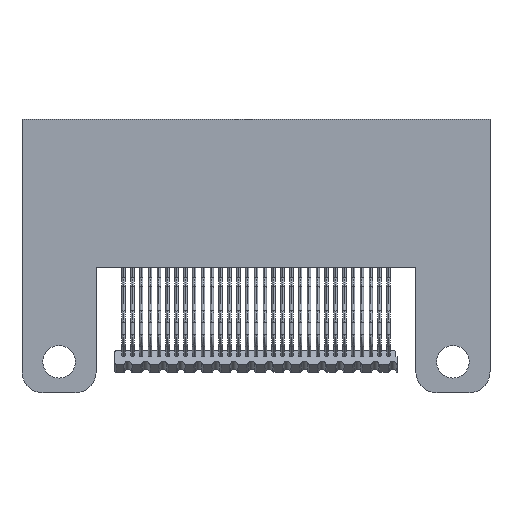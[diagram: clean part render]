
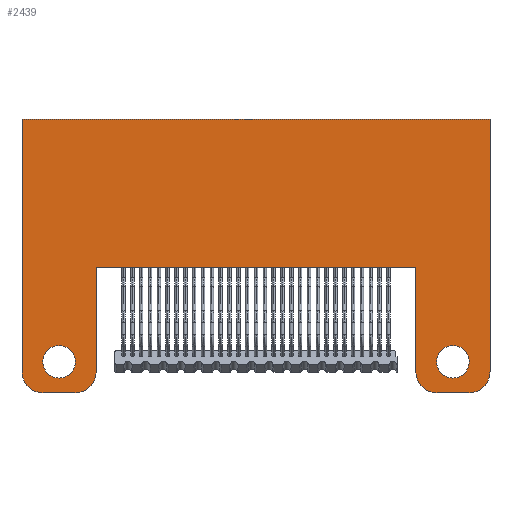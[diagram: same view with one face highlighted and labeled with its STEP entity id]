
A CAD part, front view. The second image highlights one B-rep face of the part: STEP entity #2439.
In plain terms, the highlighted planar face has unit normal (0, -1, 0).
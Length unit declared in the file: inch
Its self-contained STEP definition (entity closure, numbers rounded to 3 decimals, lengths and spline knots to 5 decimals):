
#789 = CARTESIAN_POINT ( 'NONE',  ( -0.6035, -0.17, -0.452 ) ) ;
#822 = VECTOR ( 'NONE', #51870, 39.37008 ) ;
#1034 = CARTESIAN_POINT ( 'NONE',  ( -0.6025, -0.17, -0.54 ) ) ;
#1159 = CARTESIAN_POINT ( 'NONE',  ( 0.5125, -0.17, -0.48 ) ) ;
#2302 = ORIENTED_EDGE ( 'NONE', *, *, #60281, .T. ) ;
#2439 = ADVANCED_FACE ( 'NONE', ( #62722, #19411, #24688 ), #35465, .F. ) ;
#2831 = DIRECTION ( 'NONE',  ( 0., 0., 1. ) ) ;
#3428 = DIRECTION ( 'NONE',  ( 0., 0., 1. ) ) ;
#4146 = VERTEX_POINT ( 'NONE', #50716 ) ;
#4190 = DIRECTION ( 'NONE',  ( 0., 0., 1. ) ) ;
#4247 = CARTESIAN_POINT ( 'NONE',  ( 0.6035, -0.17, -0.452 ) ) ;
#4435 = VERTEX_POINT ( 'NONE', #4247 ) ;
#4971 = CIRCLE ( 'NONE', #41656, 0.046 ) ;
#5470 = LINE ( 'NONE', #21083, #29128 ) ;
#6797 = VECTOR ( 'NONE', #52790, 39.37008 ) ;
#7897 = ORIENTED_EDGE ( 'NONE', *, *, #55354, .F. ) ;
#8046 = CARTESIAN_POINT ( 'NONE',  ( -0.5575, -0.17, -0.452 ) ) ;
#8863 = ORIENTED_EDGE ( 'NONE', *, *, #56112, .T. ) ;
#10482 = CARTESIAN_POINT ( 'NONE',  ( 0., -0.17, -0.54 ) ) ;
#11037 = AXIS2_PLACEMENT_3D ( 'NONE', #19318, #60232, #12375 ) ;
#11105 = ORIENTED_EDGE ( 'NONE', *, *, #40404, .T. ) ;
#11717 = VERTEX_POINT ( 'NONE', #25553 ) ;
#11846 = CARTESIAN_POINT ( 'NONE',  ( -0.6625, -0.17, -0.48 ) ) ;
#12375 = DIRECTION ( 'NONE',  ( 0., 0., 1. ) ) ;
#12730 = EDGE_CURVE ( 'NONE', #53734, #64496, #46226, .T. ) ;
#13580 = VERTEX_POINT ( 'NONE', #22921 ) ;
#14334 = DIRECTION ( 'NONE',  ( 0., 0., 1. ) ) ;
#14808 = LINE ( 'NONE', #25012, #822 ) ;
#14835 = DIRECTION ( 'NONE',  ( 0., 0., 1. ) ) ;
#15174 = CARTESIAN_POINT ( 'NONE',  ( 0.6625, -0.17, -1.54709 ) ) ;
#16081 = AXIS2_PLACEMENT_3D ( 'NONE', #29973, #29312, #2831 ) ;
#16768 = ORIENTED_EDGE ( 'NONE', *, *, #26011, .T. ) ;
#18457 = CARTESIAN_POINT ( 'NONE',  ( 0.6625, -0.17, -1.54709 ) ) ;
#18757 = DIRECTION ( 'NONE',  ( 0., -1., 0. ) ) ;
#18935 = AXIS2_PLACEMENT_3D ( 'NONE', #1159, #27976, #38744 ) ;
#19100 = DIRECTION ( 'NONE',  ( 0., 0., 1. ) ) ;
#19318 = CARTESIAN_POINT ( 'NONE',  ( -0.5125, -0.17, -0.48 ) ) ;
#19349 = EDGE_CURVE ( 'NONE', #31678, #56434, #65851, .T. ) ;
#19411 = FACE_BOUND ( 'NONE', #67031, .T. ) ;
#19490 = ORIENTED_EDGE ( 'NONE', *, *, #58213, .F. ) ;
#19578 = AXIS2_PLACEMENT_3D ( 'NONE', #43384, #43752, #14334 ) ;
#19988 = CARTESIAN_POINT ( 'NONE',  ( 0.4525, -0.17, -1.3384 ) ) ;
#20032 = VERTEX_POINT ( 'NONE', #25323 ) ;
#20114 = ORIENTED_EDGE ( 'NONE', *, *, #19349, .F. ) ;
#21083 = CARTESIAN_POINT ( 'NONE',  ( 0.6625, -0.17, 0.235 ) ) ;
#21273 = CARTESIAN_POINT ( 'NONE',  ( -0.4525, -0.17, -0.48 ) ) ;
#21380 = VERTEX_POINT ( 'NONE', #21273 ) ;
#22022 = ORIENTED_EDGE ( 'NONE', *, *, #12730, .T. ) ;
#22154 = CIRCLE ( 'NONE', #61196, 0.06 ) ;
#22162 = CARTESIAN_POINT ( 'NONE',  ( -0.5115, -0.17, -0.452 ) ) ;
#22921 = CARTESIAN_POINT ( 'NONE',  ( -0.4525, -0.17, -0.184 ) ) ;
#23544 = EDGE_CURVE ( 'NONE', #4435, #45471, #30882, .T. ) ;
#23637 = VERTEX_POINT ( 'NONE', #1034 ) ;
#24310 = LINE ( 'NONE', #29574, #31170 ) ;
#24596 = EDGE_CURVE ( 'NONE', #4146, #34707, #42344, .T. ) ;
#24688 = FACE_OUTER_BOUND ( 'NONE', #38482, .T. ) ;
#25012 = CARTESIAN_POINT ( 'NONE',  ( 0.6625, -0.17, -0.184 ) ) ;
#25323 = CARTESIAN_POINT ( 'NONE',  ( 0.6625, -0.17, -0.48 ) ) ;
#25553 = CARTESIAN_POINT ( 'NONE',  ( 0.4525, -0.17, -0.184 ) ) ;
#26011 = EDGE_CURVE ( 'NONE', #21380, #13580, #64117, .T. ) ;
#26700 = VECTOR ( 'NONE', #39765, 39.37008 ) ;
#26939 = EDGE_CURVE ( 'NONE', #31678, #23637, #52826, .T. ) ;
#27614 = DIRECTION ( 'NONE',  ( -1., 0., 0. ) ) ;
#27976 = DIRECTION ( 'NONE',  ( 0., -1., 0. ) ) ;
#28158 = CARTESIAN_POINT ( 'NONE',  ( -0.5125, -0.17, -0.54 ) ) ;
#29128 = VECTOR ( 'NONE', #58107, 39.37008 ) ;
#29312 = DIRECTION ( 'NONE',  ( 0., 1., 0. ) ) ;
#29574 = CARTESIAN_POINT ( 'NONE',  ( 0., -0.17, -0.54 ) ) ;
#29973 = CARTESIAN_POINT ( 'NONE',  ( -0.5575, -0.17, -0.452 ) ) ;
#30054 = VECTOR ( 'NONE', #27614, 39.37008 ) ;
#30196 = ORIENTED_EDGE ( 'NONE', *, *, #24596, .T. ) ;
#30882 = CIRCLE ( 'NONE', #59929, 0.046 ) ;
#31170 = VECTOR ( 'NONE', #44616, 39.37008 ) ;
#31678 = VERTEX_POINT ( 'NONE', #11846 ) ;
#31958 = DIRECTION ( 'NONE',  ( 0., 0., 1. ) ) ;
#32593 = ORIENTED_EDGE ( 'NONE', *, *, #55910, .F. ) ;
#32715 = CARTESIAN_POINT ( 'NONE',  ( 0.5125, -0.17, -0.54 ) ) ;
#34433 = DIRECTION ( 'NONE',  ( 0., -1., 0. ) ) ;
#34707 = VERTEX_POINT ( 'NONE', #32715 ) ;
#35465 = PLANE ( 'NONE',  #57186 ) ;
#36921 = VECTOR ( 'NONE', #3428, 39.37008 ) ;
#37223 = DIRECTION ( 'NONE',  ( 0., 1., 0. ) ) ;
#38482 = EDGE_LOOP ( 'NONE', ( #20114, #60742, #7897, #42134, #16768, #63759, #19490, #30196, #32593, #11105, #8863, #54644 ) ) ;
#38579 = ORIENTED_EDGE ( 'NONE', *, *, #23544, .T. ) ;
#38744 = DIRECTION ( 'NONE',  ( 0., 0., 1. ) ) ;
#39087 = LINE ( 'NONE', #18457, #26700 ) ;
#39765 = DIRECTION ( 'NONE',  ( 0., 0., 1. ) ) ;
#40404 = EDGE_CURVE ( 'NONE', #66656, #20032, #22154, .T. ) ;
#40447 = VERTEX_POINT ( 'NONE', #67591 ) ;
#41656 = AXIS2_PLACEMENT_3D ( 'NONE', #8046, #65267, #60405 ) ;
#42134 = ORIENTED_EDGE ( 'NONE', *, *, #55600, .T. ) ;
#42344 = CIRCLE ( 'NONE', #18935, 0.06 ) ;
#43384 = CARTESIAN_POINT ( 'NONE',  ( 0.5575, -0.17, -0.452 ) ) ;
#43616 = VECTOR ( 'NONE', #31958, 39.37008 ) ;
#43752 = DIRECTION ( 'NONE',  ( 0., 1., 0. ) ) ;
#44144 = CIRCLE ( 'NONE', #19578, 0.046 ) ;
#44616 = DIRECTION ( 'NONE',  ( -1., 0., 0. ) ) ;
#45471 = VERTEX_POINT ( 'NONE', #60130 ) ;
#46226 = CIRCLE ( 'NONE', #16081, 0.046 ) ;
#47219 = CARTESIAN_POINT ( 'NONE',  ( -0.6625, -0.17, 0.235 ) ) ;
#48743 = CARTESIAN_POINT ( 'NONE',  ( -0.4525, -0.17, -1.3384 ) ) ;
#50716 = CARTESIAN_POINT ( 'NONE',  ( 0.4525, -0.17, -0.48 ) ) ;
#50859 = DIRECTION ( 'NONE',  ( 0., 0., 1. ) ) ;
#51870 = DIRECTION ( 'NONE',  ( 1., 0., 0. ) ) ;
#52320 = ORIENTED_EDGE ( 'NONE', *, *, #61079, .T. ) ;
#52790 = DIRECTION ( 'NONE',  ( 0., 0., 1. ) ) ;
#52826 = CIRCLE ( 'NONE', #67324, 0.06 ) ;
#53557 = CARTESIAN_POINT ( 'NONE',  ( 0.6025, -0.17, -0.54 ) ) ;
#53563 = EDGE_CURVE ( 'NONE', #13580, #11717, #14808, .T. ) ;
#53734 = VERTEX_POINT ( 'NONE', #22162 ) ;
#54644 = ORIENTED_EDGE ( 'NONE', *, *, #68703, .F. ) ;
#55354 = EDGE_CURVE ( 'NONE', #67855, #23637, #24310, .T. ) ;
#55600 = EDGE_CURVE ( 'NONE', #67855, #21380, #63433, .T. ) ;
#55910 = EDGE_CURVE ( 'NONE', #66656, #34707, #58319, .T. ) ;
#56112 = EDGE_CURVE ( 'NONE', #20032, #40447, #39087, .T. ) ;
#56434 = VERTEX_POINT ( 'NONE', #47219 ) ;
#57186 = AXIS2_PLACEMENT_3D ( 'NONE', #15174, #57472, #14835 ) ;
#57472 = DIRECTION ( 'NONE',  ( 0., 1., 0. ) ) ;
#57861 = CARTESIAN_POINT ( 'NONE',  ( 0.5575, -0.17, -0.452 ) ) ;
#58107 = DIRECTION ( 'NONE',  ( 1., 0., 0. ) ) ;
#58213 = EDGE_CURVE ( 'NONE', #4146, #11717, #62940, .T. ) ;
#58319 = LINE ( 'NONE', #10482, #30054 ) ;
#59929 = AXIS2_PLACEMENT_3D ( 'NONE', #57861, #37223, #4190 ) ;
#60130 = CARTESIAN_POINT ( 'NONE',  ( 0.5115, -0.17, -0.452 ) ) ;
#60232 = DIRECTION ( 'NONE',  ( 0., -1., 0. ) ) ;
#60281 = EDGE_CURVE ( 'NONE', #64496, #53734, #4971, .T. ) ;
#60293 = CARTESIAN_POINT ( 'NONE',  ( -0.6625, -0.17, -1.54709 ) ) ;
#60405 = DIRECTION ( 'NONE',  ( 0., 0., 1. ) ) ;
#60742 = ORIENTED_EDGE ( 'NONE', *, *, #26939, .T. ) ;
#61079 = EDGE_CURVE ( 'NONE', #45471, #4435, #44144, .T. ) ;
#61136 = EDGE_LOOP ( 'NONE', ( #52320, #38579 ) ) ;
#61196 = AXIS2_PLACEMENT_3D ( 'NONE', #66556, #34433, #50859 ) ;
#62722 = FACE_BOUND ( 'NONE', #61136, .T. ) ;
#62940 = LINE ( 'NONE', #19988, #6797 ) ;
#63433 = CIRCLE ( 'NONE', #11037, 0.06 ) ;
#63759 = ORIENTED_EDGE ( 'NONE', *, *, #53563, .T. ) ;
#64117 = LINE ( 'NONE', #48743, #43616 ) ;
#64496 = VERTEX_POINT ( 'NONE', #789 ) ;
#65267 = DIRECTION ( 'NONE',  ( 0., 1., 0. ) ) ;
#65851 = LINE ( 'NONE', #60293, #36921 ) ;
#66556 = CARTESIAN_POINT ( 'NONE',  ( 0.6025, -0.17, -0.48 ) ) ;
#66587 = CARTESIAN_POINT ( 'NONE',  ( -0.6025, -0.17, -0.48 ) ) ;
#66656 = VERTEX_POINT ( 'NONE', #53557 ) ;
#67031 = EDGE_LOOP ( 'NONE', ( #2302, #22022 ) ) ;
#67324 = AXIS2_PLACEMENT_3D ( 'NONE', #66587, #18757, #19100 ) ;
#67591 = CARTESIAN_POINT ( 'NONE',  ( 0.6625, -0.17, 0.235 ) ) ;
#67855 = VERTEX_POINT ( 'NONE', #28158 ) ;
#68703 = EDGE_CURVE ( 'NONE', #56434, #40447, #5470, .T. ) ;
